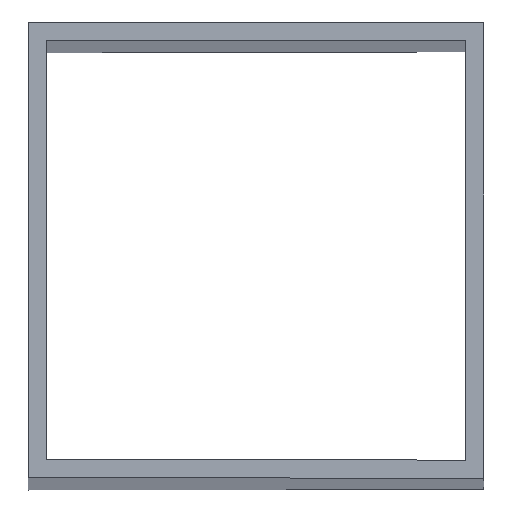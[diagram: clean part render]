
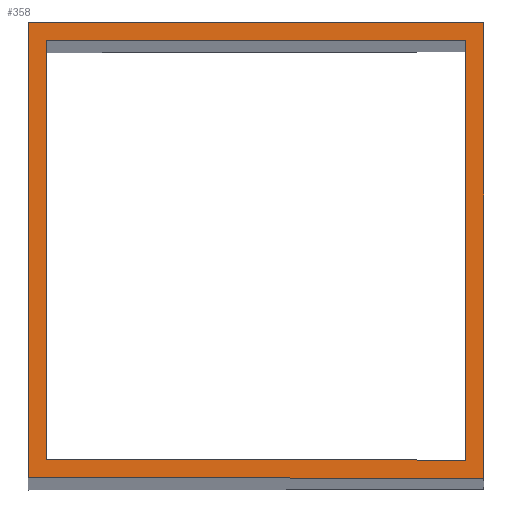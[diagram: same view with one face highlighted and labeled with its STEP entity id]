
A CAD part, top view. The second image highlights one B-rep face of the part: STEP entity #358.
In plain terms, the highlighted planar face has unit normal (0.707, 0, 0.707).
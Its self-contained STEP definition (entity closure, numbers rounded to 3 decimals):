
#32 = PLANE('',#33);
#33 = AXIS2_PLACEMENT_3D('',#34,#35,#36);
#34 = CARTESIAN_POINT('',(-75.,-75.,-75.));
#35 = DIRECTION('',(0.,1.,0.));
#36 = DIRECTION('',(1.,0.,0.));
#55 = VERTEX_POINT('',#56);
#56 = CARTESIAN_POINT('',(-75.,-75.,2275.));
#70 = PLANE('',#71);
#71 = AXIS2_PLACEMENT_3D('',#72,#73,#74);
#72 = CARTESIAN_POINT('',(-75.,75.,-75.));
#73 = DIRECTION('',(1.,0.,-0.));
#74 = DIRECTION('',(0.,-1.,0.));
#82 = EDGE_CURVE('',#83,#55,#85,.T.);
#83 = VERTEX_POINT('',#84);
#84 = CARTESIAN_POINT('',(75.,-75.,2125.));
#85 = SURFACE_CURVE('',#86,(#90,#96),.PCURVE_S1.);
#86 = LINE('',#87,#88);
#87 = CARTESIAN_POINT('',(1100.,-75.,1100.));
#88 = VECTOR('',#89,1.);
#89 = DIRECTION('',(-0.707,0.,0.707));
#90 = PCURVE('',#32,#91);
#91 = DEFINITIONAL_REPRESENTATION('',(#92),#95);
#92 = B_SPLINE_CURVE_WITH_KNOTS('',1,(#93,#94),.UNSPECIFIED.,.F.,.F.,(2,
    2),(1449.569,1661.701),
  .PIECEWISE_BEZIER_KNOTS.);
#93 = CARTESIAN_POINT('',(150.,-2200.));
#94 = CARTESIAN_POINT('',(0.,-2350.));
#95 = ( GEOMETRIC_REPRESENTATION_CONTEXT(2) 
PARAMETRIC_REPRESENTATION_CONTEXT() REPRESENTATION_CONTEXT('2D SPACE',''
  ) );
#96 = PCURVE('',#97,#102);
#97 = PLANE('',#98);
#98 = AXIS2_PLACEMENT_3D('',#99,#100,#101);
#99 = CARTESIAN_POINT('',(1100.,-0.,1100.));
#100 = DIRECTION('',(-0.707,0.,-0.707));
#101 = DIRECTION('',(-0.707,0.,0.707));
#102 = DEFINITIONAL_REPRESENTATION('',(#103),#106);
#103 = B_SPLINE_CURVE_WITH_KNOTS('',1,(#104,#105),.UNSPECIFIED.,.F.,.F.,
  (2,2),(1449.569,1661.701),
  .PIECEWISE_BEZIER_KNOTS.);
#104 = CARTESIAN_POINT('',(1449.569,-75.));
#105 = CARTESIAN_POINT('',(1661.701,-75.));
#106 = ( GEOMETRIC_REPRESENTATION_CONTEXT(2) 
PARAMETRIC_REPRESENTATION_CONTEXT() REPRESENTATION_CONTEXT('2D SPACE',''
  ) );
#122 = PLANE('',#123);
#123 = AXIS2_PLACEMENT_3D('',#124,#125,#126);
#124 = CARTESIAN_POINT('',(75.,-75.,-75.));
#125 = DIRECTION('',(-1.,0.,0.));
#126 = DIRECTION('',(0.,1.,0.));
#154 = PLANE('',#155);
#155 = AXIS2_PLACEMENT_3D('',#156,#157,#158);
#156 = CARTESIAN_POINT('',(75.,75.,-75.));
#157 = DIRECTION('',(0.,-1.,0.));
#158 = DIRECTION('',(-1.,0.,0.));
#225 = PLANE('',#226);
#226 = AXIS2_PLACEMENT_3D('',#227,#228,#229);
#227 = CARTESIAN_POINT('',(-69.,-69.,-75.));
#228 = DIRECTION('',(0.,1.,0.));
#229 = DIRECTION('',(1.,0.,0.));
#251 = PLANE('',#252);
#252 = AXIS2_PLACEMENT_3D('',#253,#254,#255);
#253 = CARTESIAN_POINT('',(-69.,69.,-75.));
#254 = DIRECTION('',(1.,0.,-0.));
#255 = DIRECTION('',(0.,-1.,0.));
#277 = PLANE('',#278);
#278 = AXIS2_PLACEMENT_3D('',#279,#280,#281);
#279 = CARTESIAN_POINT('',(69.,69.,-75.));
#280 = DIRECTION('',(0.,-1.,0.));
#281 = DIRECTION('',(-1.,0.,0.));
#301 = PLANE('',#302);
#302 = AXIS2_PLACEMENT_3D('',#303,#304,#305);
#303 = CARTESIAN_POINT('',(69.,-69.,-75.));
#304 = DIRECTION('',(-1.,0.,0.));
#305 = DIRECTION('',(0.,1.,0.));
#317 = EDGE_CURVE('',#318,#83,#320,.T.);
#318 = VERTEX_POINT('',#319);
#319 = CARTESIAN_POINT('',(75.,75.,2125.));
#320 = SURFACE_CURVE('',#321,(#325,#331),.PCURVE_S1.);
#321 = LINE('',#322,#323);
#322 = CARTESIAN_POINT('',(75.,-37.5,2125.));
#323 = VECTOR('',#324,1.);
#324 = DIRECTION('',(-0.,-1.,0.));
#325 = PCURVE('',#122,#326);
#326 = DEFINITIONAL_REPRESENTATION('',(#327),#330);
#327 = B_SPLINE_CURVE_WITH_KNOTS('',1,(#328,#329),.UNSPECIFIED.,.F.,.F.,
  (2,2),(-112.5,37.5),.PIECEWISE_BEZIER_KNOTS.);
#328 = CARTESIAN_POINT('',(150.,-2200.));
#329 = CARTESIAN_POINT('',(0.,-2200.));
#330 = ( GEOMETRIC_REPRESENTATION_CONTEXT(2) 
PARAMETRIC_REPRESENTATION_CONTEXT() REPRESENTATION_CONTEXT('2D SPACE',''
  ) );
#331 = PCURVE('',#97,#332);
#332 = DEFINITIONAL_REPRESENTATION('',(#333),#336);
#333 = B_SPLINE_CURVE_WITH_KNOTS('',1,(#334,#335),.UNSPECIFIED.,.F.,.F.,
  (2,2),(-112.5,37.5),.PIECEWISE_BEZIER_KNOTS.);
#334 = CARTESIAN_POINT('',(1449.569,75.));
#335 = CARTESIAN_POINT('',(1449.569,-75.));
#336 = ( GEOMETRIC_REPRESENTATION_CONTEXT(2) 
PARAMETRIC_REPRESENTATION_CONTEXT() REPRESENTATION_CONTEXT('2D SPACE',''
  ) );
#358 = ADVANCED_FACE('',(#359,#405),#97,.F.);
#359 = FACE_BOUND('',#360,.F.);
#360 = EDGE_LOOP('',(#361,#384,#403,#404));
#361 = ORIENTED_EDGE('',*,*,#362,.F.);
#362 = EDGE_CURVE('',#363,#55,#365,.T.);
#363 = VERTEX_POINT('',#364);
#364 = CARTESIAN_POINT('',(-75.,75.,2275.));
#365 = SURFACE_CURVE('',#366,(#370,#377),.PCURVE_S1.);
#366 = LINE('',#367,#368);
#367 = CARTESIAN_POINT('',(-75.,75.,2275.));
#368 = VECTOR('',#369,1.);
#369 = DIRECTION('',(0.,-1.,0.));
#370 = PCURVE('',#97,#371);
#371 = DEFINITIONAL_REPRESENTATION('',(#372),#376);
#372 = LINE('',#373,#374);
#373 = CARTESIAN_POINT('',(1661.701,75.));
#374 = VECTOR('',#375,1.);
#375 = DIRECTION('',(0.,-1.));
#376 = ( GEOMETRIC_REPRESENTATION_CONTEXT(2) 
PARAMETRIC_REPRESENTATION_CONTEXT() REPRESENTATION_CONTEXT('2D SPACE',''
  ) );
#377 = PCURVE('',#70,#378);
#378 = DEFINITIONAL_REPRESENTATION('',(#379),#383);
#379 = LINE('',#380,#381);
#380 = CARTESIAN_POINT('',(0.,-2350.));
#381 = VECTOR('',#382,1.);
#382 = DIRECTION('',(1.,0.));
#383 = ( GEOMETRIC_REPRESENTATION_CONTEXT(2) 
PARAMETRIC_REPRESENTATION_CONTEXT() REPRESENTATION_CONTEXT('2D SPACE',''
  ) );
#384 = ORIENTED_EDGE('',*,*,#385,.T.);
#385 = EDGE_CURVE('',#363,#318,#386,.T.);
#386 = SURFACE_CURVE('',#387,(#391,#397),.PCURVE_S1.);
#387 = LINE('',#388,#389);
#388 = CARTESIAN_POINT('',(1137.5,75.,1062.5));
#389 = VECTOR('',#390,1.);
#390 = DIRECTION('',(0.707,0.,-0.707));
#391 = PCURVE('',#97,#392);
#392 = DEFINITIONAL_REPRESENTATION('',(#393),#396);
#393 = B_SPLINE_CURVE_WITH_KNOTS('',1,(#394,#395),.UNSPECIFIED.,.F.,.F.,
  (2,2),(-1714.734,-1502.602),
  .PIECEWISE_BEZIER_KNOTS.);
#394 = CARTESIAN_POINT('',(1661.701,75.));
#395 = CARTESIAN_POINT('',(1449.569,75.));
#396 = ( GEOMETRIC_REPRESENTATION_CONTEXT(2) 
PARAMETRIC_REPRESENTATION_CONTEXT() REPRESENTATION_CONTEXT('2D SPACE',''
  ) );
#397 = PCURVE('',#154,#398);
#398 = DEFINITIONAL_REPRESENTATION('',(#399),#402);
#399 = B_SPLINE_CURVE_WITH_KNOTS('',1,(#400,#401),.UNSPECIFIED.,.F.,.F.,
  (2,2),(-1714.734,-1502.602),
  .PIECEWISE_BEZIER_KNOTS.);
#400 = CARTESIAN_POINT('',(150.,-2350.));
#401 = CARTESIAN_POINT('',(0.,-2200.));
#402 = ( GEOMETRIC_REPRESENTATION_CONTEXT(2) 
PARAMETRIC_REPRESENTATION_CONTEXT() REPRESENTATION_CONTEXT('2D SPACE',''
  ) );
#403 = ORIENTED_EDGE('',*,*,#317,.T.);
#404 = ORIENTED_EDGE('',*,*,#82,.T.);
#405 = FACE_BOUND('',#406,.F.);
#406 = EDGE_LOOP('',(#407,#430,#451,#472));
#407 = ORIENTED_EDGE('',*,*,#408,.F.);
#408 = EDGE_CURVE('',#409,#411,#413,.T.);
#409 = VERTEX_POINT('',#410);
#410 = CARTESIAN_POINT('',(69.,-69.,2131.));
#411 = VERTEX_POINT('',#412);
#412 = CARTESIAN_POINT('',(-69.,-69.,2269.));
#413 = SURFACE_CURVE('',#414,(#418,#424),.PCURVE_S1.);
#414 = LINE('',#415,#416);
#415 = CARTESIAN_POINT('',(1101.5,-69.,1098.5));
#416 = VECTOR('',#417,1.);
#417 = DIRECTION('',(-0.707,0.,0.707));
#418 = PCURVE('',#97,#419);
#419 = DEFINITIONAL_REPRESENTATION('',(#420),#423);
#420 = B_SPLINE_CURVE_WITH_KNOTS('',1,(#421,#422),.UNSPECIFIED.,.F.,.F.,
  (2,2),(1460.176,1655.337),
  .PIECEWISE_BEZIER_KNOTS.);
#421 = CARTESIAN_POINT('',(1458.054,-69.));
#422 = CARTESIAN_POINT('',(1653.216,-69.));
#423 = ( GEOMETRIC_REPRESENTATION_CONTEXT(2) 
PARAMETRIC_REPRESENTATION_CONTEXT() REPRESENTATION_CONTEXT('2D SPACE',''
  ) );
#424 = PCURVE('',#225,#425);
#425 = DEFINITIONAL_REPRESENTATION('',(#426),#429);
#426 = B_SPLINE_CURVE_WITH_KNOTS('',1,(#427,#428),.UNSPECIFIED.,.F.,.F.,
  (2,2),(1460.176,1655.337),
  .PIECEWISE_BEZIER_KNOTS.);
#427 = CARTESIAN_POINT('',(138.,-2206.));
#428 = CARTESIAN_POINT('',(0.,-2344.));
#429 = ( GEOMETRIC_REPRESENTATION_CONTEXT(2) 
PARAMETRIC_REPRESENTATION_CONTEXT() REPRESENTATION_CONTEXT('2D SPACE',''
  ) );
#430 = ORIENTED_EDGE('',*,*,#431,.F.);
#431 = EDGE_CURVE('',#432,#409,#434,.T.);
#432 = VERTEX_POINT('',#433);
#433 = CARTESIAN_POINT('',(69.,69.,2131.));
#434 = SURFACE_CURVE('',#435,(#439,#445),.PCURVE_S1.);
#435 = LINE('',#436,#437);
#436 = CARTESIAN_POINT('',(69.,-34.5,2131.));
#437 = VECTOR('',#438,1.);
#438 = DIRECTION('',(-0.,-1.,0.));
#439 = PCURVE('',#97,#440);
#440 = DEFINITIONAL_REPRESENTATION('',(#441),#444);
#441 = B_SPLINE_CURVE_WITH_KNOTS('',1,(#442,#443),.UNSPECIFIED.,.F.,.F.,
  (2,2),(-103.5,34.5),.PIECEWISE_BEZIER_KNOTS.);
#442 = CARTESIAN_POINT('',(1458.054,69.));
#443 = CARTESIAN_POINT('',(1458.054,-69.));
#444 = ( GEOMETRIC_REPRESENTATION_CONTEXT(2) 
PARAMETRIC_REPRESENTATION_CONTEXT() REPRESENTATION_CONTEXT('2D SPACE',''
  ) );
#445 = PCURVE('',#301,#446);
#446 = DEFINITIONAL_REPRESENTATION('',(#447),#450);
#447 = B_SPLINE_CURVE_WITH_KNOTS('',1,(#448,#449),.UNSPECIFIED.,.F.,.F.,
  (2,2),(-103.5,34.5),.PIECEWISE_BEZIER_KNOTS.);
#448 = CARTESIAN_POINT('',(138.,-2206.));
#449 = CARTESIAN_POINT('',(0.,-2206.));
#450 = ( GEOMETRIC_REPRESENTATION_CONTEXT(2) 
PARAMETRIC_REPRESENTATION_CONTEXT() REPRESENTATION_CONTEXT('2D SPACE',''
  ) );
#451 = ORIENTED_EDGE('',*,*,#452,.F.);
#452 = EDGE_CURVE('',#453,#432,#455,.T.);
#453 = VERTEX_POINT('',#454);
#454 = CARTESIAN_POINT('',(-69.,69.,2269.));
#455 = SURFACE_CURVE('',#456,(#460,#466),.PCURVE_S1.);
#456 = LINE('',#457,#458);
#457 = CARTESIAN_POINT('',(1136.,69.,1064.));
#458 = VECTOR('',#459,1.);
#459 = DIRECTION('',(0.707,0.,-0.707));
#460 = PCURVE('',#97,#461);
#461 = DEFINITIONAL_REPRESENTATION('',(#462),#465);
#462 = B_SPLINE_CURVE_WITH_KNOTS('',1,(#463,#464),.UNSPECIFIED.,.F.,.F.,
  (2,2),(-1704.127,-1508.966),
  .PIECEWISE_BEZIER_KNOTS.);
#463 = CARTESIAN_POINT('',(1653.216,69.));
#464 = CARTESIAN_POINT('',(1458.054,69.));
#465 = ( GEOMETRIC_REPRESENTATION_CONTEXT(2) 
PARAMETRIC_REPRESENTATION_CONTEXT() REPRESENTATION_CONTEXT('2D SPACE',''
  ) );
#466 = PCURVE('',#277,#467);
#467 = DEFINITIONAL_REPRESENTATION('',(#468),#471);
#468 = B_SPLINE_CURVE_WITH_KNOTS('',1,(#469,#470),.UNSPECIFIED.,.F.,.F.,
  (2,2),(-1704.127,-1508.966),
  .PIECEWISE_BEZIER_KNOTS.);
#469 = CARTESIAN_POINT('',(138.,-2344.));
#470 = CARTESIAN_POINT('',(0.,-2206.));
#471 = ( GEOMETRIC_REPRESENTATION_CONTEXT(2) 
PARAMETRIC_REPRESENTATION_CONTEXT() REPRESENTATION_CONTEXT('2D SPACE',''
  ) );
#472 = ORIENTED_EDGE('',*,*,#473,.F.);
#473 = EDGE_CURVE('',#411,#453,#474,.T.);
#474 = SURFACE_CURVE('',#475,(#479,#485),.PCURVE_S1.);
#475 = LINE('',#476,#477);
#476 = CARTESIAN_POINT('',(-69.,34.5,2269.));
#477 = VECTOR('',#478,1.);
#478 = DIRECTION('',(0.,1.,0.));
#479 = PCURVE('',#97,#480);
#480 = DEFINITIONAL_REPRESENTATION('',(#481),#484);
#481 = B_SPLINE_CURVE_WITH_KNOTS('',1,(#482,#483),.UNSPECIFIED.,.F.,.F.,
  (2,2),(-103.5,34.5),.PIECEWISE_BEZIER_KNOTS.);
#482 = CARTESIAN_POINT('',(1653.216,-69.));
#483 = CARTESIAN_POINT('',(1653.216,69.));
#484 = ( GEOMETRIC_REPRESENTATION_CONTEXT(2) 
PARAMETRIC_REPRESENTATION_CONTEXT() REPRESENTATION_CONTEXT('2D SPACE',''
  ) );
#485 = PCURVE('',#251,#486);
#486 = DEFINITIONAL_REPRESENTATION('',(#487),#490);
#487 = B_SPLINE_CURVE_WITH_KNOTS('',1,(#488,#489),.UNSPECIFIED.,.F.,.F.,
  (2,2),(-103.5,34.5),.PIECEWISE_BEZIER_KNOTS.);
#488 = CARTESIAN_POINT('',(138.,-2344.));
#489 = CARTESIAN_POINT('',(0.,-2344.));
#490 = ( GEOMETRIC_REPRESENTATION_CONTEXT(2) 
PARAMETRIC_REPRESENTATION_CONTEXT() REPRESENTATION_CONTEXT('2D SPACE',''
  ) );
